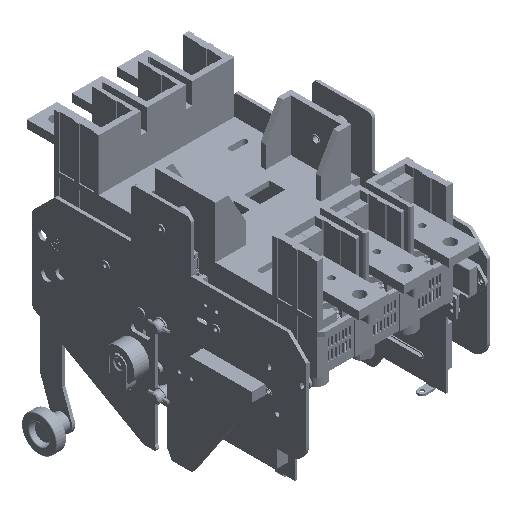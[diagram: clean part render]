
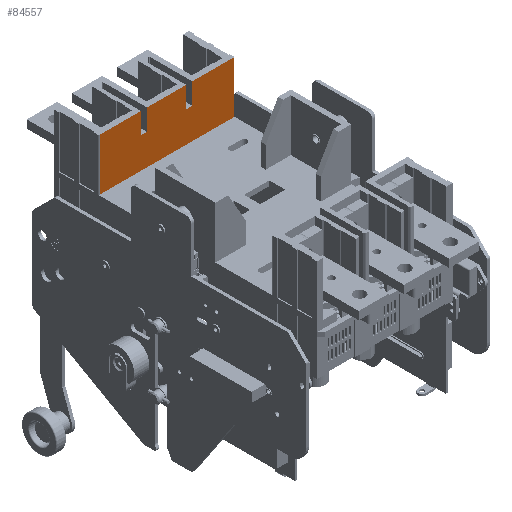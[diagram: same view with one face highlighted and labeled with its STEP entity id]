
A CAD part, isometric view. The second image highlights one B-rep face of the part: STEP entity #84557.
In plain terms, the highlighted planar face has unit normal (0, -1, 0).
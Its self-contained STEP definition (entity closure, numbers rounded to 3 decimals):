
#2566 = ORIENTED_EDGE ( 'NONE', *, *, #57848, .F. ) ;
#3181 = EDGE_CURVE ( 'NONE', #226109, #172041, #87586, .T. ) ;
#5543 = ORIENTED_EDGE ( 'NONE', *, *, #91210, .F. ) ;
#12469 = FACE_OUTER_BOUND ( 'NONE', #242508, .T. ) ;
#14958 = DIRECTION ( 'NONE',  ( 0., 0., 1. ) ) ;
#15953 = LINE ( 'NONE', #139391, #66174 ) ;
#24713 = CARTESIAN_POINT ( 'NONE',  ( -14.521, 77.79, 50.75 ) ) ;
#24930 = LINE ( 'NONE', #136002, #158117 ) ;
#36264 = LINE ( 'NONE', #180208, #161846 ) ;
#36279 = EDGE_CURVE ( 'NONE', #167482, #71870, #15953, .T. ) ;
#42154 = LINE ( 'NONE', #251876, #243379 ) ;
#43684 = ORIENTED_EDGE ( 'NONE', *, *, #3181, .F. ) ;
#46406 = DIRECTION ( 'NONE',  ( -1., 0., 0. ) ) ;
#48931 = CARTESIAN_POINT ( 'NONE',  ( 24.211, 77.79, 50.75 ) ) ;
#49311 = CARTESIAN_POINT ( 'NONE',  ( -61.655, 77.79, -0.75 ) ) ;
#49984 = ORIENTED_EDGE ( 'NONE', *, *, #105995, .F. ) ;
#51639 = AXIS2_PLACEMENT_3D ( 'NONE', #94550, #247309, #128077 ) ;
#57848 = EDGE_CURVE ( 'NONE', #164821, #167482, #199400, .T. ) ;
#60134 = CARTESIAN_POINT ( 'NONE',  ( 30.479, 77.79, 29.75 ) ) ;
#62512 = CARTESIAN_POINT ( 'NONE',  ( 24.211, 77.79, 29.75 ) ) ;
#66174 = VECTOR ( 'NONE', #159936, 1000. ) ;
#66957 = ORIENTED_EDGE ( 'NONE', *, *, #93536, .F. ) ;
#69187 = DIRECTION ( 'NONE',  ( 1., 0., 0. ) ) ;
#69765 = EDGE_CURVE ( 'NONE', #93019, #80599, #116584, .T. ) ;
#71870 = VERTEX_POINT ( 'NONE', #60134 ) ;
#72431 = DIRECTION ( 'NONE',  ( 0., 0., 1. ) ) ;
#72572 = CARTESIAN_POINT ( 'NONE',  ( -20.789, 77.79, 29.75 ) ) ;
#76266 = ORIENTED_EDGE ( 'NONE', *, *, #124579, .F. ) ;
#80599 = VERTEX_POINT ( 'NONE', #72572 ) ;
#82708 = CARTESIAN_POINT ( 'NONE',  ( 71.345, 77.79, -0.75 ) ) ;
#84557 = ADVANCED_FACE ( 'NONE', ( #12469 ), #181518, .F. ) ;
#87586 = LINE ( 'NONE', #227224, #102852 ) ;
#87723 = VERTEX_POINT ( 'NONE', #160280 ) ;
#91210 = EDGE_CURVE ( 'NONE', #174317, #164821, #36264, .T. ) ;
#93019 = VERTEX_POINT ( 'NONE', #228726 ) ;
#93536 = EDGE_CURVE ( 'NONE', #172041, #130535, #24930, .T. ) ;
#94550 = CARTESIAN_POINT ( 'NONE',  ( -68.254, 77.79, -162.469 ) ) ;
#100137 = ORIENTED_EDGE ( 'NONE', *, *, #36279, .F. ) ;
#102095 = VERTEX_POINT ( 'NONE', #137879 ) ;
#102104 = LINE ( 'NONE', #200745, #197330 ) ;
#102852 = VECTOR ( 'NONE', #46406, 1000. ) ;
#105229 = EDGE_CURVE ( 'NONE', #251482, #87723, #136175, .T. ) ;
#105995 = EDGE_CURVE ( 'NONE', #130535, #93019, #232887, .T. ) ;
#108452 = DIRECTION ( 'NONE',  ( 0., 0., -1. ) ) ;
#109588 = LINE ( 'NONE', #236910, #204172 ) ;
#111078 = CARTESIAN_POINT ( 'NONE',  ( 30.479, 77.79, 50.75 ) ) ;
#116584 = LINE ( 'NONE', #120804, #120229 ) ;
#120229 = VECTOR ( 'NONE', #108452, 1000. ) ;
#120804 = CARTESIAN_POINT ( 'NONE',  ( -20.789, 77.79, 29.75 ) ) ;
#124579 = EDGE_CURVE ( 'NONE', #71870, #251482, #109588, .T. ) ;
#126003 = CARTESIAN_POINT ( 'NONE',  ( -14.521, 77.79, 50.75 ) ) ;
#128077 = DIRECTION ( 'NONE',  ( 0., 0., -1. ) ) ;
#130535 = VERTEX_POINT ( 'NONE', #133266 ) ;
#133266 = CARTESIAN_POINT ( 'NONE',  ( -61.655, 77.79, 50.75 ) ) ;
#136002 = CARTESIAN_POINT ( 'NONE',  ( -61.655, 77.79, -162.469 ) ) ;
#136175 = LINE ( 'NONE', #152665, #147613 ) ;
#137879 = CARTESIAN_POINT ( 'NONE',  ( -14.521, 77.79, 29.75 ) ) ;
#139391 = CARTESIAN_POINT ( 'NONE',  ( 29.595, 77.79, 29.75 ) ) ;
#142515 = DIRECTION ( 'NONE',  ( 1., 0., 0. ) ) ;
#145856 = VECTOR ( 'NONE', #146020, 1000. ) ;
#146020 = DIRECTION ( 'NONE',  ( 0., 0., -1. ) ) ;
#147613 = VECTOR ( 'NONE', #164999, 1000. ) ;
#152665 = CARTESIAN_POINT ( 'NONE',  ( -68.254, 77.79, 50.75 ) ) ;
#158117 = VECTOR ( 'NONE', #185174, 1000. ) ;
#159936 = DIRECTION ( 'NONE',  ( 1., 0., 0. ) ) ;
#160280 = CARTESIAN_POINT ( 'NONE',  ( 71.345, 77.79, 50.75 ) ) ;
#160759 = ORIENTED_EDGE ( 'NONE', *, *, #166798, .F. ) ;
#161846 = VECTOR ( 'NONE', #69187, 1000. ) ;
#161903 = ORIENTED_EDGE ( 'NONE', *, *, #253658, .F. ) ;
#164821 = VERTEX_POINT ( 'NONE', #48931 ) ;
#164999 = DIRECTION ( 'NONE',  ( 1., 0., 0. ) ) ;
#166798 = EDGE_CURVE ( 'NONE', #102095, #174317, #241024, .T. ) ;
#167482 = VERTEX_POINT ( 'NONE', #62512 ) ;
#171185 = EDGE_CURVE ( 'NONE', #102095, #80599, #42154, .T. ) ;
#172041 = VERTEX_POINT ( 'NONE', #49311 ) ;
#174317 = VERTEX_POINT ( 'NONE', #24713 ) ;
#179407 = CARTESIAN_POINT ( 'NONE',  ( -68.254, 77.79, 50.75 ) ) ;
#180208 = CARTESIAN_POINT ( 'NONE',  ( -68.254, 77.79, 50.75 ) ) ;
#181518 = PLANE ( 'NONE',  #51639 ) ;
#185174 = DIRECTION ( 'NONE',  ( 0., 0., 1. ) ) ;
#197330 = VECTOR ( 'NONE', #233677, 1000. ) ;
#198745 = ORIENTED_EDGE ( 'NONE', *, *, #105229, .F. ) ;
#199400 = LINE ( 'NONE', #248885, #145856 ) ;
#200745 = CARTESIAN_POINT ( 'NONE',  ( 71.345, 77.79, -162.469 ) ) ;
#203648 = ORIENTED_EDGE ( 'NONE', *, *, #171185, .T. ) ;
#204172 = VECTOR ( 'NONE', #72431, 1000. ) ;
#209364 = ORIENTED_EDGE ( 'NONE', *, *, #69765, .F. ) ;
#211616 = VECTOR ( 'NONE', #14958, 1000. ) ;
#223167 = VECTOR ( 'NONE', #142515, 1000. ) ;
#226109 = VERTEX_POINT ( 'NONE', #82708 ) ;
#227224 = CARTESIAN_POINT ( 'NONE',  ( -68.254, 77.79, -0.75 ) ) ;
#228726 = CARTESIAN_POINT ( 'NONE',  ( -20.789, 77.79, 50.75 ) ) ;
#232887 = LINE ( 'NONE', #179407, #223167 ) ;
#233677 = DIRECTION ( 'NONE',  ( 0., 0., -1. ) ) ;
#236910 = CARTESIAN_POINT ( 'NONE',  ( 30.479, 77.79, 50.75 ) ) ;
#241024 = LINE ( 'NONE', #126003, #211616 ) ;
#242508 = EDGE_LOOP ( 'NONE', ( #161903, #198745, #76266, #100137, #2566, #5543, #160759, #203648, #209364, #49984, #66957, #43684 ) ) ;
#243379 = VECTOR ( 'NONE', #243758, 1000. ) ;
#243758 = DIRECTION ( 'NONE',  ( -1., 0., 0. ) ) ;
#247309 = DIRECTION ( 'NONE',  ( 0., 1., 0. ) ) ;
#248885 = CARTESIAN_POINT ( 'NONE',  ( 24.211, 77.79, 29.75 ) ) ;
#251482 = VERTEX_POINT ( 'NONE', #111078 ) ;
#251876 = CARTESIAN_POINT ( 'NONE',  ( -15.405, 77.79, 29.75 ) ) ;
#253658 = EDGE_CURVE ( 'NONE', #87723, #226109, #102104, .T. ) ;
